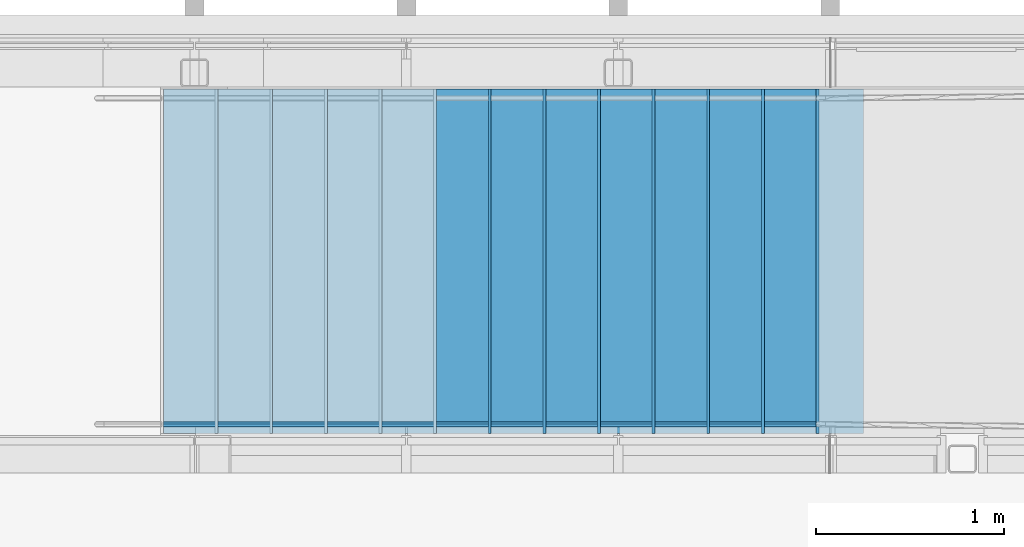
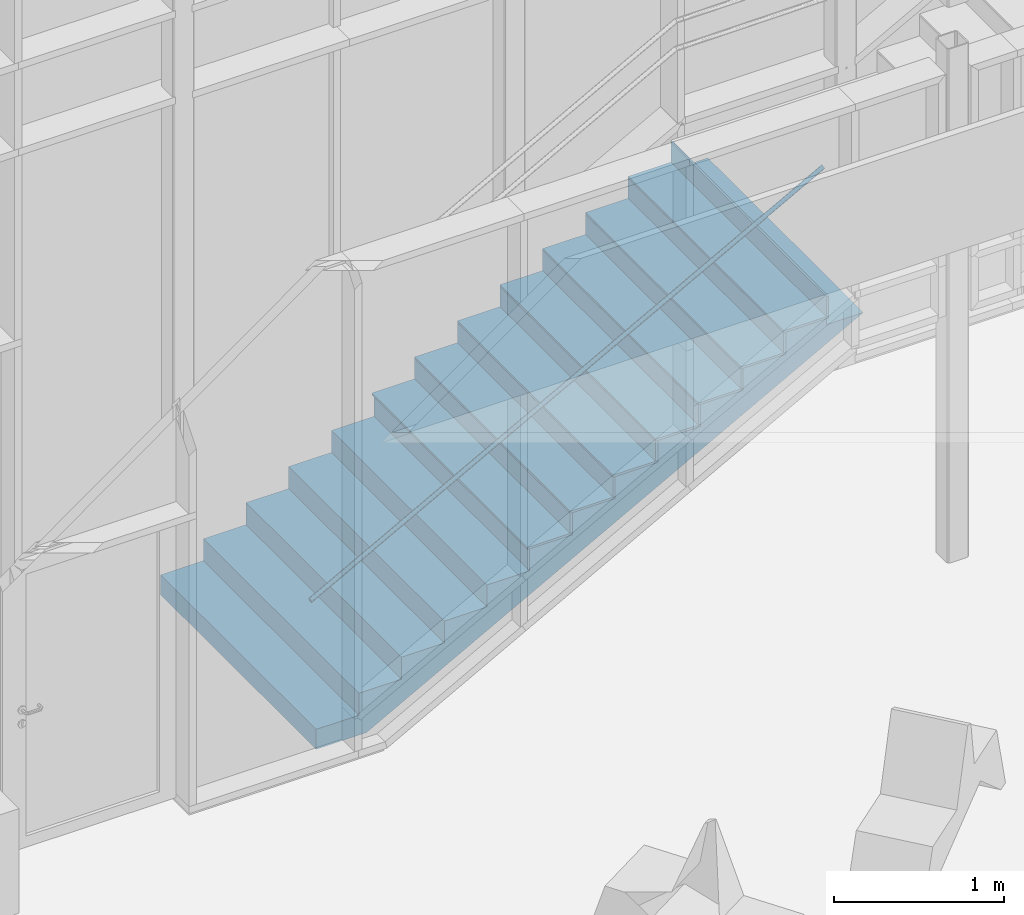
# One storey, part 190 of 301: 16 building element parts, 2 elements without a shape of their own.
"""IFC2X3 building model written with IfcOpenShell, lengths in millimetres."""

from ifc_helpers import new_model, entity, si_unit, converted_unit, derived_unit, money_unit, direction, frame, origin_with_axes, place, context, subcontext, project, spatial, faceted_brep, material, type_object, element, aggregate, save


model = new_model("IFC2X3")

# Units and contexts
model_context = context("Model", 3, precision=0.01, world=origin_with_axes(), true_north=direction((0.0, 1.0)))
body_context = subcontext(model_context, "Body", "Model", "MODEL_VIEW")
ifc_project = project(units=[si_unit("LENGTHUNIT", "METRE", prefix="MILLI"), si_unit("AREAUNIT", "SQUARE_METRE"), si_unit("VOLUMEUNIT", "CUBIC_METRE"), converted_unit("PLANEANGLEUNIT", "DEGREE", entity("IfcPlaneAngleMeasure", 0.0174532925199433), si_unit("PLANEANGLEUNIT", "RADIAN"), dimensions=[0, 0, 0, 0, 0, 0, 0]), money_unit("EUR"), converted_unit("TIMEUNIT", "Year", entity("IfcTimeMeasure", 31557600.0), si_unit("TIMEUNIT", "SECOND"), dimensions=[0, 0, 1, 0, 0, 0, 0]), si_unit("MASSUNIT", "GRAM", prefix="KILO"), si_unit("THERMODYNAMICTEMPERATUREUNIT", "DEGREE_CELSIUS"), si_unit("LUMINOUSINTENSITYUNIT", "LUMEN"), si_unit("ENERGYUNIT", "JOULE", prefix="MEGA"), derived_unit("THERMALCONDUCTANCEUNIT", [(si_unit("POWERUNIT", "WATT"), 1), (si_unit("LENGTHUNIT", "METRE"), -1), (si_unit("THERMODYNAMICTEMPERATUREUNIT", "KELVIN"), -1)]), derived_unit("SPECIFICHEATCAPACITYUNIT", [(si_unit("ENERGYUNIT", "JOULE"), 1), (si_unit("MASSUNIT", "GRAM", prefix="KILO"), -1), (si_unit("THERMODYNAMICTEMPERATUREUNIT", "KELVIN"), -1)]), derived_unit("MASSDENSITYUNIT", [(si_unit("MASSUNIT", "GRAM", prefix="KILO"), 1), (si_unit("VOLUMEUNIT", "CUBIC_METRE"), -1)])], contexts=[model_context])

# Site, building, storey
site_placement = place(None, frame((0.0, 0.0, 8650.0), z_axis=(0.0, 0.0, 1.0), x_axis=(1.0, 0.0, 0.0)))
site = spatial("IfcSite", under=ifc_project, at=site_placement, Name="43301:001:0844", CompositionType="ELEMENT")
building_placement = place(site_placement, origin_with_axes())
building = spatial("IfcBuilding", under=site, at=building_placement, Name="Kuressaare Ametikooli tuulikute mehaanikute õppekorpus", CompositionType="ELEMENT")
storey_placement = place(building_placement, origin_with_axes())
storey = spatial("IfcBuildingStorey", under=building, at=storey_placement, Name="1.korrus", CompositionType="ELEMENT", Elevation=0.0)

# Railing, building element part
railing_type = type_object("IfcRailingType", Name="Railing Type", PredefinedType="NOTDEFINED")
railing_placement = place(storey_placement, frame((107882.9493746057, 26509.57374875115, 157.6923606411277), z_axis=(0.0, 0.0, 1.0), x_axis=(1.0, 0.0, 0.0)))
railing = element("IfcRailing", 1, at=railing_placement, inside=storey, type_object=railing_type, Name="Piire", PredefinedType="NOTDEFINED")
ifc_material_1 = material(Name="Metall - Teras - Roostevaba")
building_element_part_1_placement = place(railing_placement, origin_with_axes())
building_element_part_1 = element("IfcBuildingElementPart", 2, at=building_element_part_1_placement, material=ifc_material_1, Name="Metall - Teras - Roostevaba", context=body_context, shape_type="Brep", body=[
    faceted_brep([(-917.032179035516, 75.0000000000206, 885.0000000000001), (-917.6945623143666, 74.77211629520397, 887.604722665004), (2565.300881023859, 74.77211629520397, 2781.541236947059), (2566.545180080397, 75.0000000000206, 2779.25294063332), (-916.3697957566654, 74.77211629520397, 882.395277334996), (-915.7275386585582, 74.09538931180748, 879.8696978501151), (-915.1249223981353, 72.9903810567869, 877.5000000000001), (-914.5802571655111, 71.49066664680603, 875.358185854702), (-914.1100923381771, 69.64181414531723, 873.5093333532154), (-913.7287136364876, 67.50000000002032, 872.0096189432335), (-913.4477090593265, 65.13030214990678, 870.9046106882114), (-913.2756167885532, 62.60472266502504, 870.2278837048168), (-913.2176657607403, 60.00000000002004, 870.0), (-913.2756167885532, 57.39527733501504, 870.2278837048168), (-913.4477090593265, 54.86969785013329, 870.9046106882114), (-913.7287136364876, 52.50000000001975, 872.0096189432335), (-914.1100923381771, 50.35818585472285, 873.5093333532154), (-914.5802571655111, 48.50933335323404, 875.358185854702), (-915.1249223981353, 47.00961894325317, 877.5000000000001), (-915.7275386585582, 45.90461068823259, 879.8696978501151), (-916.3697957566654, 45.2278837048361, 882.395277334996), (-917.032179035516, 45.00000000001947, 885.0000000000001), (-917.6945623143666, 45.2278837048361, 887.604722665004), (-918.3368194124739, 45.90461068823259, 890.1303021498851), (-918.939435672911, 47.00961894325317, 892.5), (-919.484100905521, 48.50933335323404, 894.6418141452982), (-919.954265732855, 50.35818585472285, 896.4906666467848), (-920.3356444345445, 52.50000000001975, 897.9903810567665), (-920.6166490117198, 54.86969785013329, 899.0953893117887), (-920.7887412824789, 57.39527733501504, 899.7721162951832), (-920.8466923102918, 60.00000000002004, 900.0), (-920.7887412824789, 62.60472266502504, 899.7721162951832), (-920.6166490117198, 65.13030214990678, 899.0953893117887), (-920.3356444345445, 67.50000000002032, 897.9903810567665), (-919.954265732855, 69.64181414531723, 896.4906666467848), (-919.484100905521, 71.49066664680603, 894.6418141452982), (-918.939435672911, 72.9903810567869, 892.5), (-918.3368194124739, 74.09538931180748, 890.1303021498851), (-917.032179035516, 65.00000000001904, 885.0000000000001), (-917.2529734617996, 64.92403876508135, 885.8682408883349), (-917.4670591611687, 64.698463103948, 886.7101007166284), (-917.6679312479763, 64.33012701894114, 887.5000000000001), (-917.8494863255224, 63.83022221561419, 888.2139380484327), (-918.0062079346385, 63.21393804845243, 888.830222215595), (-918.1333341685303, 62.50000000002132, 889.3301270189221), (-918.227002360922, 61.71010071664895, 889.6984631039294), (-918.2843664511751, 60.86824088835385, 889.924038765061), (-918.3036834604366, 60.00000000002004, 890.0), (-918.2843664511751, 59.13175911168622, 889.924038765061), (-918.227002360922, 58.28989928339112, 889.6984631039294), (-918.1333341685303, 57.50000000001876, 889.3301270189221), (-918.0062079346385, 56.78606195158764, 888.830222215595), (-917.8494863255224, 56.16977778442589, 888.2139380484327), (-917.6679312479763, 55.66987298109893, 887.5000000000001), (-917.4670591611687, 55.30153689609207, 886.7101007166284), (-917.2529734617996, 55.07596123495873, 885.8682408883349), (-917.032179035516, 55.00000000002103, 885.0000000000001), (-916.8113846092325, 55.07596123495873, 884.1317591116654), (-916.5972989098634, 55.30153689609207, 883.2898992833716), (-916.3964268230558, 55.66987298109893, 882.5000000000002), (-916.2148717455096, 56.16977778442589, 881.7860619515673), (-916.0581501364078, 56.78606195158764, 881.169777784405), (-915.9310239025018, 57.50000000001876, 880.6698729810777), (-915.8373557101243, 58.28989928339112, 880.3015368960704), (-915.779991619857, 59.13175911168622, 880.0759612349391), (-915.7606746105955, 60.00000000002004, 880.0), (-915.779991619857, 60.86824088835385, 880.0759612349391), (-915.8373557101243, 61.71010071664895, 880.3015368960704), (-915.9310239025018, 62.50000000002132, 880.6698729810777), (-916.0581501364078, 63.21393804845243, 881.169777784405), (-916.2148717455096, 63.83022221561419, 881.7860619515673), (-916.3964268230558, 64.33012701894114, 882.5000000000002), (-916.5972989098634, 64.698463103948, 883.2898992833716), (-916.8113846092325, 64.92403876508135, 884.1317591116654), (2564.094389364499, 74.09538931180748, 2783.760004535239), (2562.962363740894, 72.9903810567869, 2785.841827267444), (2561.939200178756, 71.49066664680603, 2787.723450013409), (2561.055986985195, 69.64181414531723, 2789.347700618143), (2560.339560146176, 67.50000000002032, 2790.665227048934), (2559.811687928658, 65.13030214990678, 2791.635996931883), (2559.488409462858, 62.60472266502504, 2792.230513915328), (2559.379547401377, 60.00000000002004, 2792.430713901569), (2559.488409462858, 57.39527733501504, 2792.230513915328), (2559.811687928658, 54.86969785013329, 2791.635996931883), (2560.339560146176, 52.50000000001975, 2790.665227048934), (2561.055986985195, 50.35818585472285, 2789.347700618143), (2561.939200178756, 48.50933335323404, 2787.723450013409), (2562.962363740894, 47.00961894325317, 2785.841827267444), (2564.094389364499, 45.90461068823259, 2783.760004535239), (2565.300881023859, 45.2278837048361, 2781.541236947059), (2566.545180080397, 45.00000000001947, 2779.25294063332), (2567.789479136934, 45.2278837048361, 2776.96464431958), (2568.995970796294, 45.90461068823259, 2774.7458767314), (2570.127996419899, 47.00961894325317, 2772.664053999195), (2571.151159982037, 48.50933335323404, 2770.782431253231), (2572.034373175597, 50.35818585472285, 2769.158180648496), (2572.750800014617, 52.50000000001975, 2767.840654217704), (2573.278672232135, 54.86969785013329, 2766.869884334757), (2573.601950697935, 57.39527733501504, 2766.275367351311), (2573.710812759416, 60.00000000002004, 2766.075167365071), (2573.601950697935, 62.60472266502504, 2766.275367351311), (2573.278672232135, 65.13030214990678, 2766.869884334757), (2572.750800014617, 67.50000000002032, 2767.840654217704), (2572.034373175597, 69.64181414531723, 2769.158180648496), (2571.151159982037, 71.49066664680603, 2770.782431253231), (2570.127996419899, 72.9903810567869, 2772.664053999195), (2568.995970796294, 74.09538931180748, 2774.7458767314), (2567.789479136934, 74.77211629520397, 2776.96464431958), (2566.545180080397, 65.00000000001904, 2779.25294063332), (2566.959946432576, 64.92403876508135, 2778.490175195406), (2567.362110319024, 64.698463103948, 2777.750585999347), (2567.739452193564, 64.33012701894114, 2777.056645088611), (2568.080506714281, 63.83022221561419, 2776.429437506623), (2568.37491111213, 63.21393804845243, 2775.888020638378), (2568.613720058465, 62.50000000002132, 2775.448845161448), (2568.78967746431, 61.71010071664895, 2775.125255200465), (2568.897436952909, 60.86824088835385, 2774.92708287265), (2568.933724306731, 60.00000000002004, 2774.860349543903), (2568.897436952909, 59.13175911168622, 2774.92708287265), (2568.78967746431, 58.28989928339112, 2775.125255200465), (2568.613720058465, 57.50000000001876, 2775.448845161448), (2568.37491111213, 56.78606195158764, 2775.888020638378), (2568.080506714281, 56.16977778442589, 2776.429437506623), (2567.739452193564, 55.66987298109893, 2777.056645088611), (2567.362110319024, 55.30153689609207, 2777.750585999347), (2566.959946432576, 55.07596123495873, 2778.490175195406), (2566.545180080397, 55.00000000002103, 2779.25294063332), (2566.130413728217, 55.07596123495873, 2780.015706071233), (2565.728249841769, 55.30153689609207, 2780.755295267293), (2565.350907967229, 55.66987298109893, 2781.449236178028), (2565.009853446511, 56.16977778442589, 2782.076443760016), (2564.715449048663, 56.78606195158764, 2782.617860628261), (2564.476640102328, 57.50000000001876, 2783.057036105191), (2564.300682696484, 58.28989928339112, 2783.380626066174), (2564.192923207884, 59.13175911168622, 2783.578798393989), (2564.156635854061, 60.00000000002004, 2783.645531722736), (2564.192923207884, 60.86824088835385, 2783.578798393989), (2564.300682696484, 61.71010071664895, 2783.380626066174), (2564.476640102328, 62.50000000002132, 2783.057036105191), (2564.715449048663, 63.21393804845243, 2782.617860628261), (2565.009853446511, 63.83022221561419, 2782.076443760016), (2565.350907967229, 64.33012701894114, 2781.449236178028), (2565.728249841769, 64.698463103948, 2780.755295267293), (2566.130413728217, 64.92403876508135, 2780.015706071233)], [[[0, 1, 2, 3]], [[0, 4, 5, 6, 7, 8, 9, 10, 11, 12, 13, 14, 15, 16, 17, 18, 19, 20, 21, 22, 23, 24, 25, 26, 27, 28, 29, 30, 31, 32, 33, 34, 35, 36, 37, 1], [38, 39, 40, 41, 42, 43, 44, 45, 46, 47, 48, 49, 50, 51, 52, 53, 54, 55, 56, 57, 58, 59, 60, 61, 62, 63, 64, 65, 66, 67, 68, 69, 70, 71, 72, 73]], [[1, 37, 74, 2]], [[3, 2, 74, 75, 76, 77, 78, 79, 80, 81, 82, 83, 84, 85, 86, 87, 88, 89, 90, 91, 92, 93, 94, 95, 96, 97, 98, 99, 100, 101, 102, 103, 104, 105, 106, 107], [108, 109, 110, 111, 112, 113, 114, 115, 116, 117, 118, 119, 120, 121, 122, 123, 124, 125, 126, 127, 128, 129, 130, 131, 132, 133, 134, 135, 136, 137, 138, 139, 140, 141, 142, 143]], [[4, 0, 3, 107]], [[5, 4, 107, 106]], [[6, 5, 106, 105]], [[7, 6, 105, 104]], [[8, 7, 104, 103]], [[9, 8, 103, 102]], [[10, 9, 102, 101]], [[11, 10, 101, 100]], [[12, 11, 100, 99]], [[13, 12, 99, 98]], [[14, 13, 98, 97]], [[15, 14, 97, 96]], [[16, 15, 96, 95]], [[17, 16, 95, 94]], [[18, 17, 94, 93]], [[19, 18, 93, 92]], [[20, 19, 92, 91]], [[21, 20, 91, 90]], [[22, 21, 90, 89]], [[23, 22, 89, 88]], [[24, 23, 88, 87]], [[25, 24, 87, 86]], [[26, 25, 86, 85]], [[27, 26, 85, 84]], [[28, 27, 84, 83]], [[29, 28, 83, 82]], [[30, 29, 82, 81]], [[31, 30, 81, 80]], [[32, 31, 80, 79]], [[33, 32, 79, 78]], [[34, 33, 78, 77]], [[35, 34, 77, 76]], [[36, 35, 76, 75]], [[37, 36, 75, 74]], [[39, 38, 108, 143]], [[40, 39, 143, 142]], [[41, 40, 142, 141]], [[42, 41, 141, 140]], [[43, 42, 140, 139]], [[44, 43, 139, 138]], [[45, 44, 138, 137]], [[46, 45, 137, 136]], [[47, 46, 136, 135]], [[48, 47, 135, 134]], [[49, 48, 134, 133]], [[50, 49, 133, 132]], [[51, 50, 132, 131]], [[52, 51, 131, 130]], [[53, 52, 130, 129]], [[54, 53, 129, 128]], [[55, 54, 128, 127]], [[56, 55, 127, 126]], [[57, 56, 126, 125]], [[58, 57, 125, 124]], [[59, 58, 124, 123]], [[60, 59, 123, 122]], [[61, 60, 122, 121]], [[62, 61, 121, 120]], [[63, 62, 120, 119]], [[64, 63, 119, 118]], [[65, 64, 118, 117]], [[66, 65, 117, 116]], [[67, 66, 116, 115]], [[68, 67, 115, 114]], [[69, 68, 114, 113]], [[70, 69, 113, 112]], [[71, 70, 112, 111]], [[72, 71, 111, 110]], [[73, 72, 110, 109]], [[38, 73, 109, 108]]]),
])
aggregate(railing, [building_element_part_1])

# Stair, building element parts
stair_placement = place(storey_placement, frame((106962.1026822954, 28349.57374875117, 5.294881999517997e-05), z_axis=(0.0, 0.0, 1.0), x_axis=(1.0, 0.0, 0.0)))
stair = element("IfcStair", 3, at=stair_placement, inside=storey, Name="Trepp1", ShapeType="NOTDEFINED")
ifc_material_2 = material(Name="Betoon - C25/30")
building_element_part_2_placement = place(stair_placement, origin_with_axes())
building_element_part_2 = element("IfcBuildingElementPart", 4, at=building_element_part_2_placement, material=ifc_material_2, Name="Betoon - C25/30", context=body_context, shape_type="Brep", body=[
    faceted_brep([(3480.0, -1830.0, 1835.0), (3480.0, -2.34908892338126e-06, 1835.0), (3480.0, 0.0, 1877.307692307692), (3480.0, -1830.0, 1877.307692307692), (3731.193913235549, -1829.999995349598, 1835.0), (3731.193913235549, 4.249795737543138e-06, 1835.0), (3480.0, -2.34908892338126e-06, 1698.409145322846), (3383.333333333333, 0.0, 1645.845042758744), (3286.666666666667, 0.0, 1593.28094019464), (3190.0, 0.0, 1540.716837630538), (3093.333333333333, 0.0, 1488.152735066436), (2996.666666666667, 0.0, 1435.588632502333), (2900.0, 0.0, 1383.02452993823), (2803.333333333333, 0.0, 1330.460427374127), (2706.666666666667, 0.0, 1277.896324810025), (2610.0, 0.0, 1225.332222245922), (2513.333333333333, 0.0, 1172.76811968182), (2416.666666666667, 0.0, 1120.204017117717), (2320.0, 0.0, 1067.639914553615), (2223.333333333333, 0.0, 1015.075811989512), (2126.666666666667, 0.0, 962.5117094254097), (2030.0, 0.0, 909.947606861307), (1933.333333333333, 0.0, 857.3835042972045), (1836.666666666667, 0.0, 804.8194017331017), (1740.0, 0.0, 752.2552991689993), (1643.333333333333, 0.0, 699.6911966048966), (1546.666666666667, 0.0, 647.1270940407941), (1450.0, 0.0, 594.5629914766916), (1353.333333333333, 0.0, 541.9988889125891), (1256.666666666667, 0.0, 489.4347863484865), (1160.0, 0.0, 436.8706837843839), (1063.333333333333, 0.0, 384.3065812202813), (966.6666666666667, 0.0, 331.7424786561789), (870.0000000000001, 0.0, 279.1783760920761), (773.3333333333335, 0.0, 226.6142735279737), (676.6666666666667, 0.0, 174.0501709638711), (580.0000000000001, 0.0, 121.4860683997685), (483.3333333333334, 0.0, 68.9219658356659), (386.6666666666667, 0.0, 16.3578632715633), (356.5841571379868, 0.0, 0.0), (15.00000000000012, 0.0, 0.0), (15.00000000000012, 0.0, 142.6923076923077), (305.0000000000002, 0.0, 142.6923076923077), (305.0000000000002, 0.0, 300.3846153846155), (594.9999999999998, 0.0, 300.3846153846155), (594.9999999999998, 0.0, 458.076923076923), (884.9999999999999, 0.0, 458.076923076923), (884.9999999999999, 0.0, 615.7692307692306), (1175.0, 0.0, 615.7692307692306), (1175.0, 0.0, 773.4615384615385), (1465.0, 0.0, 773.4615384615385), (1465.0, 0.0, 931.1538461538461), (1755.0, 0.0, 931.1538461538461), (1755.0, 0.0, 1088.846153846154), (2045.0, 0.0, 1088.846153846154), (2045.0, 0.0, 1246.538461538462), (2335.0, 0.0, 1246.538461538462), (2335.0, 0.0, 1404.230769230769), (2625.0, 0.0, 1404.230769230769), (2625.0, 0.0, 1561.923076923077), (2915.0, 0.0, 1561.923076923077), (2915.0, 0.0, 1719.615384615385), (3205.0, 0.0, 1719.615384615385), (3205.0, 0.0, 1877.307692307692), (3205.0, -1830.0, 1877.307692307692), (3205.0, -1830.0, 1719.615384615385), (2915.0, -1830.0, 1719.615384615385), (2915.0, -1830.0, 1561.923076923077), (2625.0, -1830.0, 1561.923076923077), (2625.0, -1830.0, 1404.230769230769), (2335.0, -1830.0, 1404.230769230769), (2335.0, -1830.0, 1246.538461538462), (2045.0, -1830.0, 1246.538461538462), (2045.0, -1830.0, 1088.846153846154), (1755.0, -1830.0, 1088.846153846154), (1755.0, -1830.0, 931.1538461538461), (1465.0, -1830.0, 931.1538461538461), (1465.0, -1830.0, 773.4615384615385), (1175.0, -1830.0, 773.4615384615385), (1175.0, -1830.0, 615.7692307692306), (884.9999999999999, -1830.0, 615.7692307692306), (884.9999999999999, -1830.0, 458.076923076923), (594.9999999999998, -1830.0, 458.076923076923), (594.9999999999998, -1830.0, 300.3846153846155), (305.0000000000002, -1830.0, 300.3846153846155), (305.0000000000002, -1830.0, 142.6923076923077), (15.00000000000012, -1830.0, 142.6923076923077), (15.00000000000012, -1830.0, 0.0), (356.5841571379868, -1830.0, 0.0), (386.6666666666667, -1830.0, 16.3578632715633), (483.3333333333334, -1830.0, 68.9219658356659), (580.0000000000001, -1830.0, 121.4860683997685), (676.6666666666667, -1830.0, 174.0501709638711), (773.3333333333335, -1830.0, 226.6142735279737), (870.0000000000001, -1830.0, 279.1783760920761), (966.6666666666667, -1830.0, 331.7424786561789), (1063.333333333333, -1830.0, 384.3065812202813), (1160.0, -1830.0, 436.8706837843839), (1256.666666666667, -1830.0, 489.4347863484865), (1353.333333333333, -1830.0, 541.9988889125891), (1450.0, -1830.0, 594.5629914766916), (1546.666666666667, -1830.0, 647.1270940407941), (1643.333333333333, -1830.0, 699.6911966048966), (1740.0, -1830.0, 752.2552991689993), (1836.666666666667, -1830.0, 804.8194017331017), (1933.333333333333, -1830.0, 857.3835042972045), (2030.0, -1830.0, 909.947606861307), (2126.666666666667, -1830.0, 962.5117094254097), (2223.333333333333, -1830.0, 1015.075811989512), (2320.0, -1830.0, 1067.639914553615), (2416.666666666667, -1830.0, 1120.204017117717), (2513.333333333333, -1830.0, 1172.76811968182), (2610.0, -1830.0, 1225.332222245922), (2706.666666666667, -1830.0, 1277.896324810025), (2803.333333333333, -1830.0, 1330.460427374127), (2900.0, -1830.0, 1383.02452993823), (2996.666666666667, -1830.0, 1435.588632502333), (3093.333333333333, -1830.0, 1488.152735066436), (3190.0, -1830.0, 1540.716837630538), (3286.666666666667, -1830.0, 1593.28094019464), (3383.333333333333, -1830.0, 1645.845042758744), (3480.0, -1830.0, 1698.409145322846)], [[[0, 1, 2, 3]], [[1, 0, 4, 5]], [[6, 7, 8, 9, 10, 11, 12, 13, 14, 15, 16, 17, 18, 19, 20, 21, 22, 23, 24, 25, 26, 27, 28, 29, 30, 31, 32, 33, 34, 35, 36, 37, 38, 39, 40, 41, 42, 43, 44, 45, 46, 47, 48, 49, 50, 51, 52, 53, 54, 55, 56, 57, 58, 59, 60, 61, 62, 63, 2, 1, 5]], [[3, 2, 63, 64]], [[0, 3, 64, 65, 66, 67, 68, 69, 70, 71, 72, 73, 74, 75, 76, 77, 78, 79, 80, 81, 82, 83, 84, 85, 86, 87, 88, 89, 90, 91, 92, 93, 94, 95, 96, 97, 98, 99, 100, 101, 102, 103, 104, 105, 106, 107, 108, 109, 110, 111, 112, 113, 114, 115, 116, 117, 118, 119, 120, 121, 4]], [[121, 120, 7, 6, 5, 4]], [[119, 8, 7, 120]], [[118, 9, 8, 119]], [[117, 10, 9, 118]], [[116, 11, 10, 117]], [[115, 12, 11, 116]], [[114, 13, 12, 115]], [[113, 14, 13, 114]], [[112, 15, 14, 113]], [[111, 16, 15, 112]], [[110, 17, 16, 111]], [[109, 18, 17, 110]], [[108, 19, 18, 109]], [[107, 20, 19, 108]], [[106, 21, 20, 107]], [[105, 22, 21, 106]], [[104, 23, 22, 105]], [[103, 24, 23, 104]], [[102, 25, 24, 103]], [[101, 26, 25, 102]], [[100, 27, 26, 101]], [[99, 28, 27, 100]], [[98, 29, 28, 99]], [[97, 30, 29, 98]], [[96, 31, 30, 97]], [[95, 32, 31, 96]], [[94, 33, 32, 95]], [[93, 34, 33, 94]], [[92, 35, 34, 93]], [[91, 36, 35, 92]], [[90, 37, 36, 91]], [[89, 38, 37, 90]], [[88, 39, 38, 89]], [[87, 40, 39, 88]], [[40, 87, 86, 41]], [[41, 86, 85, 42]], [[42, 85, 84, 43]], [[43, 84, 83, 44]], [[44, 83, 82, 45]], [[45, 82, 81, 46]], [[46, 81, 80, 47]], [[47, 80, 79, 48]], [[48, 79, 78, 49]], [[49, 78, 77, 50]], [[50, 77, 76, 51]], [[51, 76, 75, 52]], [[52, 75, 74, 53]], [[53, 74, 73, 54]], [[54, 73, 72, 55]], [[55, 72, 71, 56]], [[56, 71, 70, 57]], [[57, 70, 69, 58]], [[58, 69, 68, 59]], [[59, 68, 67, 60]], [[60, 67, 66, 61]], [[61, 66, 65, 62]], [[62, 65, 64, 63]]]),
])
ifc_material_3 = material(Name="GENEERILINE - SISEMINE VIIMISTLUS")
building_element_part_3_placement = place(stair_placement, origin_with_axes())
building_element_part_3 = element("IfcBuildingElementPart", 5, at=building_element_part_3_placement, material=ifc_material_3, Name="GENEERILINE - SISEMINE VIIMISTLUS", context=body_context, shape_type="Brep", body=[
    faceted_brep([(1739.999999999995, -1829.999999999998, 1088.846153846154), (1754.999999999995, -1829.999999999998, 1088.846153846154), (1754.999999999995, 0.0, 1088.846153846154), (1739.999999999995, 0.0, 1088.846153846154), (1739.999999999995, -1829.999999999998, 946.1538461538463), (1754.999999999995, -1829.999999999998, 946.1538461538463), (1754.999999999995, 0.0, 946.1538461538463), (1739.999999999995, 0.0, 946.1538461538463)], [[[0, 1, 2, 3]], [[0, 4, 5, 1]], [[1, 5, 6, 2]], [[3, 2, 6, 7]], [[4, 0, 3, 7]], [[5, 4, 7, 6]]]),
])
building_element_part_4_placement = place(stair_placement, origin_with_axes())
building_element_part_4 = element("IfcBuildingElementPart", 6, at=building_element_part_4_placement, material=ifc_material_3, Name="GENEERILINE - SISEMINE VIIMISTLUS", context=body_context, shape_type="Brep", body=[
    faceted_brep([(2319.999999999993, -1829.999999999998, 1404.230769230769), (2334.999999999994, -1829.999999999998, 1404.230769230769), (2334.999999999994, 0.0, 1404.230769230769), (2319.999999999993, 0.0, 1404.230769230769), (2319.999999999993, -1829.999999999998, 1261.538461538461), (2334.999999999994, -1829.999999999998, 1261.538461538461), (2334.999999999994, 0.0, 1261.538461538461), (2319.999999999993, 0.0, 1261.538461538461)], [[[0, 1, 2, 3]], [[0, 4, 5, 1]], [[1, 5, 6, 2]], [[3, 2, 6, 7]], [[4, 0, 3, 7]], [[5, 4, 7, 6]]]),
])
building_element_part_5_placement = place(stair_placement, origin_with_axes())
building_element_part_5 = element("IfcBuildingElementPart", 7, at=building_element_part_5_placement, material=ifc_material_3, Name="GENEERILINE - SISEMINE VIIMISTLUS", context=body_context, shape_type="Brep", body=[
    faceted_brep([(2030.000000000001, -1829.999999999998, 1246.538461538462), (2045.000000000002, -1829.999999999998, 1246.538461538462), (2045.000000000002, 0.0, 1246.538461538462), (2030.000000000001, 0.0, 1246.538461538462), (2030.000000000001, -1829.999999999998, 1103.846153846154), (2045.000000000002, -1829.999999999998, 1103.846153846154), (2045.000000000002, 0.0, 1103.846153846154), (2030.000000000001, 0.0, 1103.846153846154)], [[[0, 1, 2, 3]], [[0, 4, 5, 1]], [[1, 5, 6, 2]], [[3, 2, 6, 7]], [[4, 0, 3, 7]], [[5, 4, 7, 6]]]),
])
building_element_part_6_placement = place(stair_placement, origin_with_axes())
building_element_part_6 = element("IfcBuildingElementPart", 8, at=building_element_part_6_placement, material=ifc_material_3, Name="GENEERILINE - SISEMINE VIIMISTLUS", context=body_context, shape_type="Brep", body=[
    faceted_brep([(2900.000000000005, -1829.999999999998, 1719.615384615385), (2915.000000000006, -1829.999999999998, 1719.615384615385), (2915.000000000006, 0.0, 1719.615384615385), (2900.000000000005, 0.0, 1719.615384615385), (2900.000000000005, -1829.999999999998, 1576.923076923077), (2915.000000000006, -1829.999999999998, 1576.923076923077), (2915.000000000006, 0.0, 1576.923076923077), (2900.000000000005, 0.0, 1576.923076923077)], [[[0, 1, 2, 3]], [[0, 4, 5, 1]], [[1, 5, 6, 2]], [[3, 2, 6, 7]], [[4, 0, 3, 7]], [[5, 4, 7, 6]]]),
])
building_element_part_7_placement = place(stair_placement, origin_with_axes())
building_element_part_7 = element("IfcBuildingElementPart", 9, at=building_element_part_7_placement, material=ifc_material_3, Name="GENEERILINE - SISEMINE VIIMISTLUS", context=body_context, shape_type="Brep", body=[
    faceted_brep([(2610.0, -1829.999999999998, 1561.923076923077), (2625.0, -1829.999999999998, 1561.923076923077), (2625.0, 0.0, 1561.923076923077), (2610.0, 0.0, 1561.923076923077), (2610.0, -1829.999999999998, 1419.230769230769), (2625.0, -1829.999999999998, 1419.230769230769), (2625.0, 0.0, 1419.230769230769), (2610.0, 0.0, 1419.230769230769)], [[[0, 1, 2, 3]], [[0, 4, 5, 1]], [[1, 5, 6, 2]], [[3, 2, 6, 7]], [[4, 0, 3, 7]], [[5, 4, 7, 6]]]),
])
building_element_part_8_placement = place(stair_placement, origin_with_axes())
building_element_part_8 = element("IfcBuildingElementPart", 10, at=building_element_part_8_placement, material=ifc_material_3, Name="GENEERILINE - SISEMINE VIIMISTLUS", context=body_context, shape_type="Brep", body=[
    faceted_brep([(3189.999999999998, -1829.999999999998, 1877.307692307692), (3204.999999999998, -1829.999999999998, 1877.307692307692), (3204.999999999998, 0.0, 1877.307692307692), (3189.999999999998, 0.0, 1877.307692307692), (3189.999999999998, -1829.999999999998, 1734.615384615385), (3204.999999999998, -1829.999999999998, 1734.615384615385), (3204.999999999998, 0.0, 1734.615384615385), (3189.999999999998, 0.0, 1734.615384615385)], [[[0, 1, 2, 3]], [[0, 4, 5, 1]], [[1, 5, 6, 2]], [[3, 2, 6, 7]], [[4, 0, 3, 7]], [[5, 4, 7, 6]]]),
])
building_element_part_9_placement = place(stair_placement, origin_with_axes())
building_element_part_9 = element("IfcBuildingElementPart", 11, at=building_element_part_9_placement, material=ifc_material_3, Name="GENEERILINE - SISEMINE VIIMISTLUS", context=body_context, shape_type="Brep", body=[
    faceted_brep([(3480.000000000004, -1829.999999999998, 2035.0), (3495.000000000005, -1829.999999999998, 2035.0), (3495.000000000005, 0.0, 2035.0), (3480.000000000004, 0.0, 2035.0), (3480.000000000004, -1829.999999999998, 1892.307692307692), (3495.000000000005, -1829.999999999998, 1892.307692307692), (3495.000000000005, 0.0, 1892.307692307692), (3480.000000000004, 0.0, 1892.307692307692)], [[[0, 1, 2, 3]], [[0, 4, 5, 1]], [[1, 5, 6, 2]], [[3, 2, 6, 7]], [[4, 0, 3, 7]], [[5, 4, 7, 6]]]),
])
building_element_part_10_placement = place(stair_placement, origin_with_axes())
building_element_part_10 = element("IfcBuildingElementPart", 12, at=building_element_part_10_placement, material=ifc_material_3, Name="GENEERILINE - SISEMINE VIIMISTLUS", context=body_context, shape_type="Brep", body=[
    faceted_brep([(1450.000000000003, 0.0, 931.1538461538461), (1450.000000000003, -1829.999999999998, 931.1538461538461), (1450.000000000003, -1829.999999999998, 946.1538461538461), (1450.000000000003, 0.0, 946.1538461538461), (1755.00000000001, 0.0, 931.1538461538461), (1755.00000000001, -1829.999999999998, 931.1538461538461), (1755.00000000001, -1829.999999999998, 946.1538461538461), (1755.00000000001, 0.0, 946.1538461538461)], [[[0, 1, 2, 3]], [[0, 4, 5, 1]], [[1, 5, 6, 2]], [[3, 2, 6, 7]], [[4, 0, 3, 7]], [[5, 4, 7, 6]]]),
])
building_element_part_11_placement = place(stair_placement, origin_with_axes())
building_element_part_11 = element("IfcBuildingElementPart", 13, at=building_element_part_11_placement, material=ifc_material_3, Name="GENEERILINE - SISEMINE VIIMISTLUS", context=body_context, shape_type="Brep", body=[
    faceted_brep([(1739.999999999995, 0.0, 1088.846153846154), (1739.999999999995, -1829.999999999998, 1088.846153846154), (1739.999999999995, -1829.999999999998, 1103.846153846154), (1739.999999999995, 0.0, 1103.846153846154), (2045.000000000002, 0.0, 1088.846153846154), (2045.000000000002, -1829.999999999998, 1088.846153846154), (2045.000000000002, -1829.999999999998, 1103.846153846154), (2045.000000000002, 0.0, 1103.846153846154)], [[[0, 1, 2, 3]], [[0, 4, 5, 1]], [[1, 5, 6, 2]], [[3, 2, 6, 7]], [[4, 0, 3, 7]], [[5, 4, 7, 6]]]),
])
building_element_part_12_placement = place(stair_placement, origin_with_axes())
building_element_part_12 = element("IfcBuildingElementPart", 14, at=building_element_part_12_placement, material=ifc_material_3, Name="GENEERILINE - SISEMINE VIIMISTLUS", context=body_context, shape_type="Brep", body=[
    faceted_brep([(2030.000000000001, 0.0, 1246.538461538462), (2030.000000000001, -1829.999999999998, 1246.538461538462), (2030.000000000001, -1829.999999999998, 1261.538461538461), (2030.000000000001, 0.0, 1261.538461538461), (2335.000000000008, 0.0, 1246.538461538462), (2335.000000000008, -1829.999999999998, 1246.538461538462), (2335.000000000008, -1829.999999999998, 1261.538461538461), (2335.000000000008, 0.0, 1261.538461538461)], [[[0, 1, 2, 3]], [[0, 4, 5, 1]], [[1, 5, 6, 2]], [[3, 2, 6, 7]], [[4, 0, 3, 7]], [[5, 4, 7, 6]]]),
])
building_element_part_13_placement = place(stair_placement, origin_with_axes())
building_element_part_13 = element("IfcBuildingElementPart", 15, at=building_element_part_13_placement, material=ifc_material_3, Name="GENEERILINE - SISEMINE VIIMISTLUS", context=body_context, shape_type="Brep", body=[
    faceted_brep([(2319.999999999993, 0.0, 1404.230769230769), (2319.999999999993, -1829.999999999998, 1404.230769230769), (2319.999999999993, -1829.999999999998, 1419.230769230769), (2319.999999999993, 0.0, 1419.230769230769), (2625.0, 0.0, 1404.230769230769), (2625.0, -1829.999999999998, 1404.230769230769), (2625.0, -1829.999999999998, 1419.230769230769), (2625.0, 0.0, 1419.230769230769)], [[[0, 1, 2, 3]], [[0, 4, 5, 1]], [[1, 5, 6, 2]], [[3, 2, 6, 7]], [[4, 0, 3, 7]], [[5, 4, 7, 6]]]),
])
building_element_part_14_placement = place(stair_placement, origin_with_axes())
building_element_part_14 = element("IfcBuildingElementPart", 16, at=building_element_part_14_placement, material=ifc_material_3, Name="GENEERILINE - SISEMINE VIIMISTLUS", context=body_context, shape_type="Brep", body=[
    faceted_brep([(2610.0, 0.0, 1561.923076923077), (2610.0, -1829.999999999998, 1561.923076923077), (2610.0, -1829.999999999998, 1576.923076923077), (2610.0, 0.0, 1576.923076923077), (2915.000000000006, 0.0, 1561.923076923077), (2915.000000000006, -1829.999999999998, 1561.923076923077), (2915.000000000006, -1829.999999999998, 1576.923076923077), (2915.000000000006, 0.0, 1576.923076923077)], [[[0, 1, 2, 3]], [[0, 4, 5, 1]], [[1, 5, 6, 2]], [[3, 2, 6, 7]], [[4, 0, 3, 7]], [[5, 4, 7, 6]]]),
])
building_element_part_15_placement = place(stair_placement, origin_with_axes())
building_element_part_15 = element("IfcBuildingElementPart", 17, at=building_element_part_15_placement, material=ifc_material_3, Name="GENEERILINE - SISEMINE VIIMISTLUS", context=body_context, shape_type="Brep", body=[
    faceted_brep([(2900.000000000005, 0.0, 1719.615384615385), (2900.000000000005, -1829.999999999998, 1719.615384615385), (2900.000000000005, -1829.999999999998, 1734.615384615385), (2900.000000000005, 0.0, 1734.615384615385), (3205.000000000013, 0.0, 1719.615384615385), (3205.000000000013, -1829.999999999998, 1719.615384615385), (3205.000000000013, -1829.999999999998, 1734.615384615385), (3205.000000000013, 0.0, 1734.615384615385)], [[[0, 1, 2, 3]], [[0, 4, 5, 1]], [[1, 5, 6, 2]], [[3, 2, 6, 7]], [[4, 0, 3, 7]], [[5, 4, 7, 6]]]),
])
building_element_part_16_placement = place(stair_placement, origin_with_axes())
building_element_part_16 = element("IfcBuildingElementPart", 18, at=building_element_part_16_placement, material=ifc_material_3, Name="GENEERILINE - SISEMINE VIIMISTLUS", context=body_context, shape_type="Brep", body=[
    faceted_brep([(3189.999999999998, 0.0, 1877.307692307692), (3189.999999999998, -1829.999999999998, 1877.307692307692), (3189.999999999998, -1829.999999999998, 1892.307692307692), (3189.999999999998, 0.0, 1892.307692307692), (3480.000000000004, 0.0, 1877.307692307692), (3495.000000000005, 2.670006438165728e-07, 1877.307692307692), (3495.000000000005, -1829.999999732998, 1877.307692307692), (3480.000000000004, -1829.999999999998, 1877.307692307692), (3480.000000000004, -1829.999999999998, 1892.307692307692), (3495.000000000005, -1829.999999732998, 1892.307692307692), (3495.000000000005, 2.670006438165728e-07, 1892.307692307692), (3480.000000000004, 0.0, 1892.307692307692)], [[[0, 1, 2, 3]], [[0, 4, 5, 6, 7, 1]], [[1, 7, 8, 2]], [[3, 2, 8, 9, 10, 11]], [[4, 0, 3, 11]], [[5, 4, 11, 10]], [[6, 5, 10, 9]], [[7, 6, 9, 8]]]),
])
aggregate(stair, [building_element_part_2, building_element_part_3, building_element_part_4, building_element_part_5, building_element_part_6, building_element_part_7, building_element_part_8, building_element_part_9, building_element_part_10, building_element_part_11, building_element_part_12, building_element_part_13, building_element_part_14, building_element_part_15, building_element_part_16])

save(model, "model.ifc")
